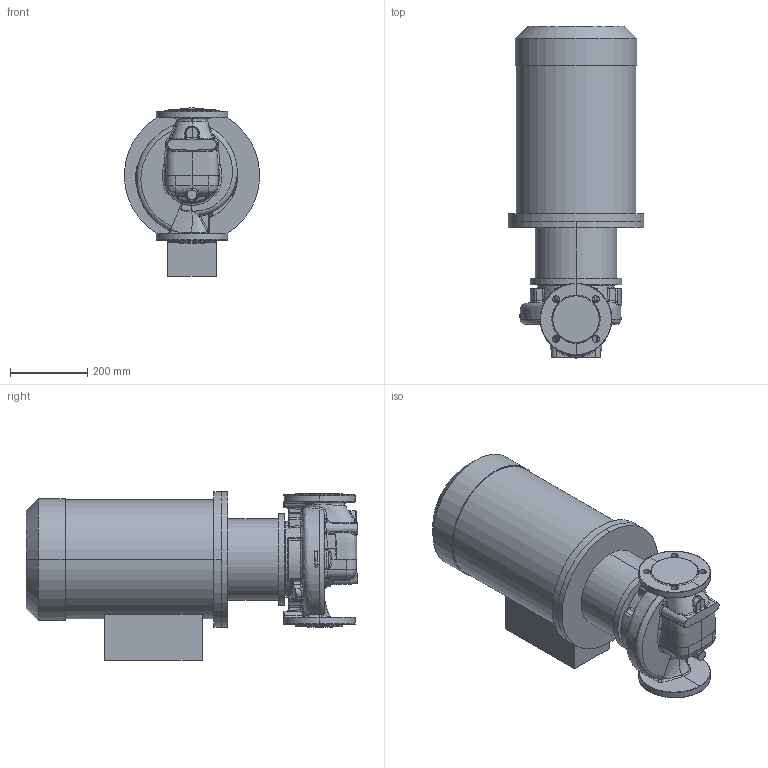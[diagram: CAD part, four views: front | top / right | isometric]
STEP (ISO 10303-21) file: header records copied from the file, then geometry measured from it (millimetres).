
FILE_DESCRIPTION (( 'STEP AP214' ), '1' );
FILE_NAME ('KRL 65-160-2-11.STEP', '2026-03-23T08:09:21', ( '' ), ( '' ), 'SwSTEP 2.0', 'SolidWorks 2016', '' );
FILE_SCHEMA (( 'AUTOMOTIVE_DESIGN' ));
Length unit declared in the file: millimetre
Products named in the file (1): KRL 65-160-2-11
Bounding box: 350 x 857.3 x 435 mm (x, y, z)
Volume: 56729657.8 mm3; surface area: 1529797.4 mm2
Topology: 4 solids, 4 shells, 642 faces, 1526 edges, 886 vertices
Faces by surface type: bspline 357, cylinder 106, plane 88, sphere 42, cone 31, torus 18
Entity records: 67941 total; most frequent: CARTESIAN_POINT 49083, ORIENTED_EDGE 3008, DIRECTION 1705, EDGE_CURVE 1504, VERTEX_POINT 886, AXIS2_PLACEMENT_3D 752, B_SPLINE_CURVE_WITH_KNOTS 711, EDGE_LOOP 666
